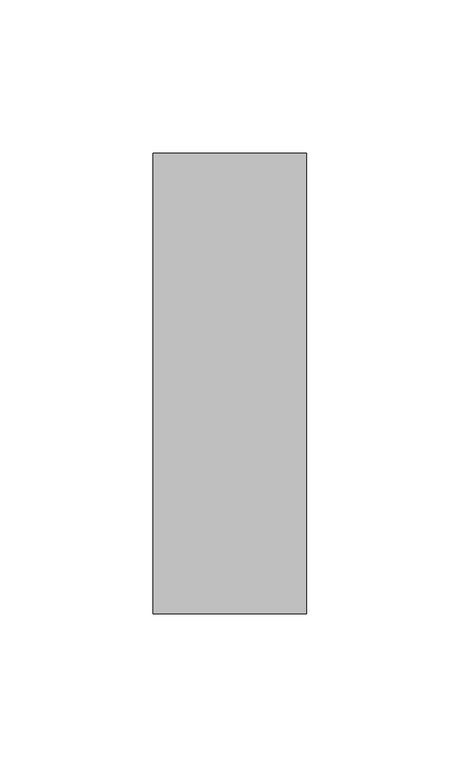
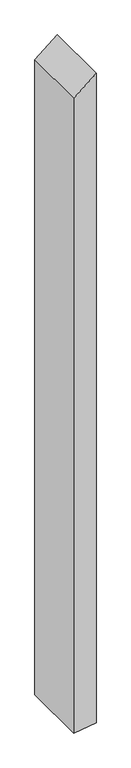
"""IFC4 building model written with IfcOpenShell, lengths in millimetres: member geometry, Прямоугольный импост : 50 x 150 мм."""

from ifc_helpers import new_model, si_unit, frame, origin, place, context, project, spatial, polyline, outline, extrude, source, transform, mapped, element, save


def member_088e4847(model_context):
    return source(origin(), model_context, "Body", "SweptSolid", [
        extrude(outline(polyline([(0.0, 0.0), (-40.6294725, -50.0), (-1539.6651551, -50.0), (-1532.417398, 0.0), (0.0, 0.0)])), frame((0.0, -75.0, 0.0), z_axis=(0.0, 1.0, 0.0), x_axis=(0.0, 0.0, 1.0)), (0.0, 0.0, 1.0), 150.0),
    ])


if __name__ == "__main__":
    model = new_model("IFC4")
    model_context = context("Model", 3, world=origin())
    ifc_project = project(units=[si_unit("LENGTHUNIT", "METRE", prefix="MILLI")], contexts=[model_context])
    site = spatial("IfcSite", under=ifc_project)
    building = spatial("IfcBuilding", under=site)
    placement = place(None, origin())
    member_shape = member_088e4847(model_context)
    element("IfcMember", 1, ObjectType="Прямоугольный импост : 50 x 150 мм", at=placement, inside=building, context=model_context, shape_type="MappedRepresentation", body=[
        mapped(member_shape, transform((0.0, 0.0, 0.0), x_axis=(1.0, 0.0, 0.0), y_axis=(0.0, 1.0, 0.0), z_axis=(0.0, 0.0, 1.0))),
    ])
    save(model, "model.ifc")
